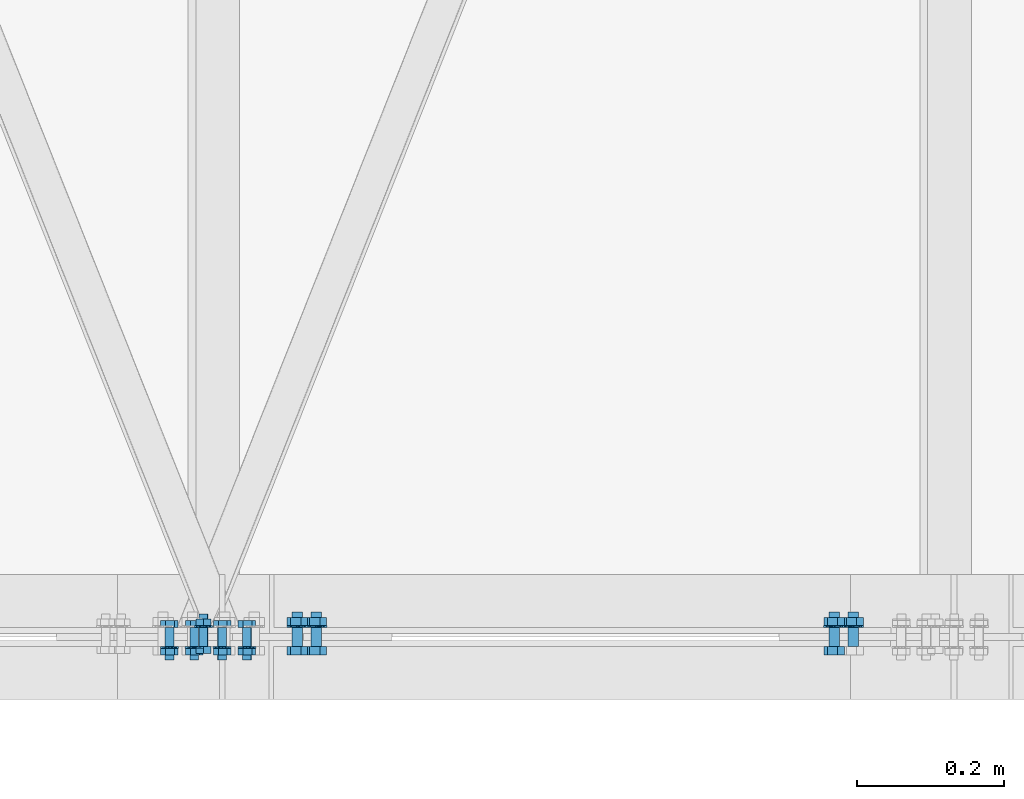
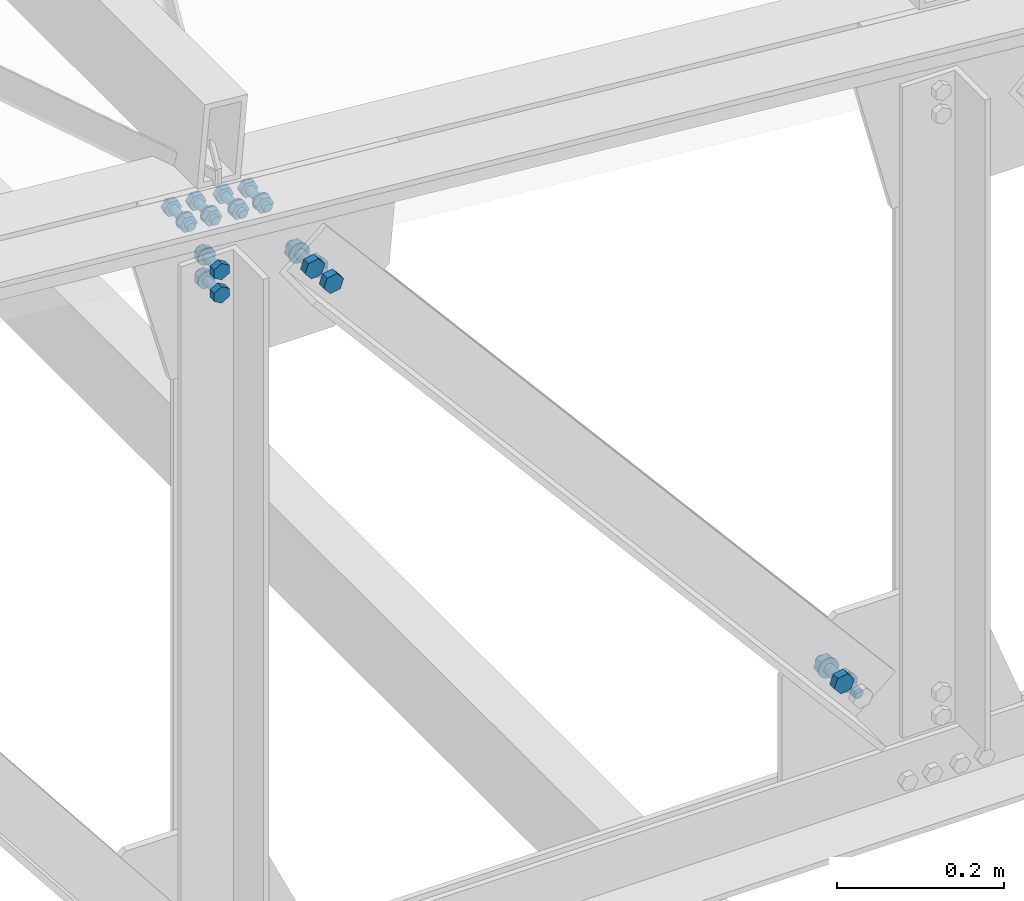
# One storey, part 93 of 251: 39 mechanical fasteners.
"""IFC4 building model written with IfcOpenShell, lengths in metres."""

from ifc_helpers import new_model, si_unit, frame, origin_with_axes, place, context, project, spatial, polyline, outline, extrude, type_object, element, save


model = new_model("IFC4")

# Units and contexts
model_context = context("Model", 3, precision=1e-05, world=origin_with_axes())
ifc_project = project(units=[si_unit("LENGTHUNIT", "METRE"), si_unit("AREAUNIT", "SQUARE_METRE"), si_unit("VOLUMEUNIT", "CUBIC_METRE"), si_unit("MASSUNIT", "GRAM", prefix="KILO"), si_unit("TIMEUNIT", "SECOND"), si_unit("PLANEANGLEUNIT", "RADIAN"), si_unit("SOLIDANGLEUNIT", "STERADIAN"), si_unit("THERMODYNAMICTEMPERATUREUNIT", "DEGREE_CELSIUS")], contexts=[model_context])

# Site, building, storey
placement_1 = place(None, origin_with_axes())
site = spatial("IfcSite", under=ifc_project, at=placement_1, Name="Italia", CompositionType="ELEMENT")
building = spatial("IfcBuilding", under=site, at=placement_1, Name="Deposito", CompositionType="ELEMENT")
storey = spatial("IfcBuildingStorey", under=building, at=placement_1, Name="Storey 0", CompositionType="ELEMENT", Elevation=0.0)

# Mechanical fasteners
mechanical_fastener_type_1 = type_object("IfcMechanicalFastenerType", Name="Reticolare 2", PredefinedType="BOLT")
placement_2 = place(placement_1, origin_with_axes())
mechanical_fastener_1_placement = place(placement_2, origin_with_axes())
element("IfcMechanicalFastener", 1, at=mechanical_fastener_1_placement, inside=storey, type_object=mechanical_fastener_type_1, Name="Reticolare 2", NominalDiameter=0.014, context=model_context, shape_type="SweptSolid", body=[
    extrude(outline(polyline([(0.0, 0.0), (-0.000238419, -0.0018115), (-0.000938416, -0.00349998), (-0.0020504, -0.00494957), (-0.00349998, -0.00606203), (-0.00518799, -0.00676155), (-0.00699997, -0.00699997), (-0.00881195, -0.00676155), (-0.0105, -0.00606203), (-0.0119495, -0.00494957), (-0.0130615, -0.00349998), (-0.0137615, -0.0018115), (-0.0139999, 0.0), (-0.0137615, 0.0018115), (-0.0130615, 0.00349998), (-0.0119495, 0.00494957), (-0.0105, 0.00606203), (-0.00881195, 0.00676155), (-0.00699997, 0.00699997), (-0.00518799, 0.00676155), (-0.00349998, 0.00606203), (-0.0020504, 0.00494957), (-0.000938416, 0.00349998), (-0.000238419, 0.0018115), (0.0, 0.0)])), frame((18.8921, 0.034, 5.15388), z_axis=(0.0, -1.0, 0.0), x_axis=(1.0, 0.0, 0.0)), (0.0, 0.0, 1.0), 0.047),
])
mechanical_fastener_type_2 = type_object("IfcMechanicalFastenerType", Name="Reticolare 2", PredefinedType="BOLT")
mechanical_fastener_2_placement = place(placement_2, origin_with_axes())
element("IfcMechanicalFastener", 2, at=mechanical_fastener_2_placement, inside=storey, type_object=mechanical_fastener_type_2, Name="Reticolare 2", NominalDiameter=0.0139996, context=model_context, shape_type="SweptSolid", body=[
    extrude(outline(polyline([(0.0, 0.0), (-0.00905609, 0.0106759), (-0.00433922, 0.0238571), (0.00943565, 0.0263624), (0.0184917, 0.0156865), (0.0137749, 0.0025053), (0.0, 0.0)])), frame((18.8804, 0.0262, 5.1407), z_axis=(0.0, -1.0, 0.0), x_axis=(1.0, 0.0, 0.0)), (0.0, 0.0, 1.0), 0.0112),
])
mechanical_fastener_type_3 = type_object("IfcMechanicalFastenerType", Name="Reticolare 2", PredefinedType="BOLT")
mechanical_fastener_3_placement = place(placement_2, origin_with_axes())
element("IfcMechanicalFastener", 3, at=mechanical_fastener_3_placement, inside=storey, type_object=mechanical_fastener_type_3, Name="Reticolare 2", NominalDiameter=0.028, context=model_context, shape_type="SweptSolid", body=[
    extrude(outline(polyline([(0.0, 0.0), (-0.000476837, -0.00362349), (-0.00187492, -0.00699997), (-0.0041008, -0.00989962), (-0.00699997, -0.0121245), (-0.010376, -0.0135231), (-0.0139999, -0.0139999), (-0.0176239, -0.0135231), (-0.0209999, -0.0121245), (-0.0238991, -0.00989962), (-0.026125, -0.00699997), (-0.027523, -0.00362349), (-0.0279999, 0.0), (-0.027523, 0.00362349), (-0.026125, 0.00699997), (-0.0238991, 0.00989962), (-0.0209999, 0.0121245), (-0.0176239, 0.0135231), (-0.0139999, 0.0139999), (-0.010376, 0.0135231), (-0.00699997, 0.0121245), (-0.0041008, 0.00989962), (-0.00187492, 0.00699997), (-0.000476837, 0.00362349), (0.0, 0.0)])), frame((18.8991, 0.015, 5.15388), z_axis=(0.0, -1.0, 0.0), x_axis=(1.0, 0.0, 0.0)), (0.0, 0.0, 1.0), 0.002),
])
mechanical_fastener_type_4 = type_object("IfcMechanicalFastenerType", Name="Reticolare 2", PredefinedType="BOLT")
mechanical_fastener_4_placement = place(placement_2, origin_with_axes())
element("IfcMechanicalFastener", 4, at=mechanical_fastener_4_placement, inside=storey, type_object=mechanical_fastener_type_4, Name="Reticolare 2", NominalDiameter=0.013999, context=model_context, shape_type="SweptSolid", body=[
    extrude(outline(polyline([(0.0, 0.0), (-0.009058, 0.0106759), (-0.00433922, 0.0238571), (0.00943375, 0.0263624), (0.0184917, 0.0156865), (0.013773, 0.0025053), (0.0, 0.0)])), frame((18.8545, -0.013, 5.1712), z_axis=(0.0, -1.0, 0.0), x_axis=(1.0, 0.0, 0.0)), (0.0, 0.0, 1.0), 0.0112),
])
mechanical_fastener_type_5 = type_object("IfcMechanicalFastenerType", Name="Reticolare 2", PredefinedType="BOLT")
mechanical_fastener_5_placement = place(placement_2, origin_with_axes())
element("IfcMechanicalFastener", 5, at=mechanical_fastener_5_placement, inside=storey, type_object=mechanical_fastener_type_5, Name="Reticolare 2", NominalDiameter=0.014, context=model_context, shape_type="SweptSolid", body=[
    extrude(outline(polyline([(0.0, 0.0), (-0.000238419, -0.0018115), (-0.000938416, -0.00349998), (-0.0020504, -0.00494957), (-0.00349998, -0.00606203), (-0.00518799, -0.00676155), (-0.00699997, -0.00699997), (-0.00881195, -0.00676155), (-0.0105, -0.00606203), (-0.0119495, -0.00494957), (-0.0130615, -0.00349998), (-0.0137615, -0.0018115), (-0.0139999, 0.0), (-0.0137615, 0.0018115), (-0.0130615, 0.00349998), (-0.0119495, 0.00494957), (-0.0105, 0.00606203), (-0.00881195, 0.00676155), (-0.00699997, 0.00699997), (-0.00518799, 0.00676155), (-0.00349998, 0.00606203), (-0.0020504, 0.00494957), (-0.000938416, 0.00349998), (-0.000238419, 0.0018115), (0.0, 0.0)])), frame((18.8662, 0.034, 5.18438), z_axis=(0.0, -1.0, 0.0), x_axis=(1.0, 0.0, 0.0)), (0.0, 0.0, 1.0), 0.047),
])
mechanical_fastener_type_6 = type_object("IfcMechanicalFastenerType", Name="Reticolare 2", PredefinedType="BOLT")
mechanical_fastener_6_placement = place(placement_2, origin_with_axes())
element("IfcMechanicalFastener", 6, at=mechanical_fastener_6_placement, inside=storey, type_object=mechanical_fastener_type_6, Name="Reticolare 2", NominalDiameter=0.013999, context=model_context, shape_type="SweptSolid", body=[
    extrude(outline(polyline([(0.0, 0.0), (-0.009058, 0.0106759), (-0.00433922, 0.0238571), (0.00943375, 0.0263624), (0.0184917, 0.0156865), (0.013773, 0.0025053), (0.0, 0.0)])), frame((18.8545, 0.0262, 5.1712), z_axis=(0.0, -1.0, 0.0), x_axis=(1.0, 0.0, 0.0)), (0.0, 0.0, 1.0), 0.0112),
])
mechanical_fastener_type_7 = type_object("IfcMechanicalFastenerType", Name="Reticolare 2", PredefinedType="BOLT")
mechanical_fastener_7_placement = place(placement_2, origin_with_axes())
element("IfcMechanicalFastener", 7, at=mechanical_fastener_7_placement, inside=storey, type_object=mechanical_fastener_type_7, Name="Reticolare 2", NominalDiameter=0.028, context=model_context, shape_type="SweptSolid", body=[
    extrude(outline(polyline([(0.0, 0.0), (-0.000476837, -0.00362349), (-0.00187492, -0.00699997), (-0.0041008, -0.00989962), (-0.00699997, -0.0121245), (-0.010376, -0.0135231), (-0.0139999, -0.0139999), (-0.0176239, -0.0135231), (-0.0209999, -0.0121245), (-0.0238991, -0.00989962), (-0.026125, -0.00699997), (-0.027523, -0.00362349), (-0.0279999, 0.0), (-0.027523, 0.00362349), (-0.026125, 0.00699997), (-0.0238991, 0.00989962), (-0.0209999, 0.0121245), (-0.0176239, 0.0135231), (-0.0139999, 0.0139999), (-0.010376, 0.0135231), (-0.00699997, 0.0121245), (-0.0041008, 0.00989962), (-0.00187492, 0.00699997), (-0.000476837, 0.00362349), (0.0, 0.0)])), frame((18.8732, 0.015, 5.18438), z_axis=(0.0, -1.0, 0.0), x_axis=(1.0, 0.0, 0.0)), (0.0, 0.0, 1.0), 0.002),
])
mechanical_fastener_type_8 = type_object("IfcMechanicalFastenerType", Name="Reticolare 2", PredefinedType="BOLT")
mechanical_fastener_8_placement = place(placement_2, origin_with_axes())
element("IfcMechanicalFastener", 8, at=mechanical_fastener_8_placement, inside=storey, type_object=mechanical_fastener_type_8, Name="Reticolare 2", NominalDiameter=0.011999, context=model_context, shape_type="SweptSolid", body=[
    extrude(outline(polyline([(0.0, 0.0), (0.0119534, 0.0010457), (0.018837, -0.00878429), (0.0137653, -0.01966), (0.00181007, -0.0207057), (-0.00507164, -0.0108757), (0.0, 0.0)])), frame((18.0328, 0.013, 6.17551), z_axis=(0.0, 1.0, 0.0), x_axis=(-1.0, 0.0, 0.0)), (0.0, 0.0, 1.0), 0.0096),
])
mechanical_fastener_type_9 = type_object("IfcMechanicalFastenerType", Name="Reticolare 2", PredefinedType="BOLT")
mechanical_fastener_9_placement = place(placement_2, origin_with_axes())
element("IfcMechanicalFastener", 9, at=mechanical_fastener_9_placement, inside=storey, type_object=mechanical_fastener_type_9, Name="Reticolare 2", NominalDiameter=0.012, context=model_context, shape_type="SweptSolid", body=[
    extrude(outline(polyline([(0.0, 0.0), (-0.000204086, -0.00155306), (-0.000804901, -0.00299978), (-0.00175858, -0.00424242), (-0.00300026, -0.00519609), (-0.00444794, -0.00579548), (-0.00600052, -0.00600004), (-0.0075531, -0.00579548), (-0.00900078, -0.00519609), (-0.0102425, -0.00424242), (-0.0111961, -0.00299978), (-0.011797, -0.00155306), (-0.012001, 0.0), (-0.011797, 0.00155306), (-0.0111961, 0.00299978), (-0.0102425, 0.00424242), (-0.00900078, 0.00519609), (-0.0075531, 0.00579548), (-0.00600052, 0.00600004), (-0.00444794, 0.00579548), (-0.00300026, 0.00519609), (-0.00175858, 0.00424242), (-0.000804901, 0.00299978), (-0.000204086, 0.00155306), (0.0, 0.0)])), frame((18.0199, -0.031, 6.16568), z_axis=(0.0, 1.0, 0.0), x_axis=(-1.0, 0.0, 0.0)), (0.0, 0.0, 1.0), 0.044),
])
mechanical_fastener_type_10 = type_object("IfcMechanicalFastenerType", Name="Reticolare 2", PredefinedType="BOLT")
mechanical_fastener_10_placement = place(placement_2, origin_with_axes())
element("IfcMechanicalFastener", 10, at=mechanical_fastener_10_placement, inside=storey, type_object=mechanical_fastener_type_10, Name="Reticolare 2", NominalDiameter=0.011999, context=model_context, shape_type="SweptSolid", body=[
    extrude(outline(polyline([(0.0, 0.0), (0.0119534, 0.0010457), (0.018837, -0.00878429), (0.0137653, -0.01966), (0.00181007, -0.0207057), (-0.00507164, -0.0108757), (0.0, 0.0)])), frame((18.0328, -0.0246, 6.17551), z_axis=(0.0, 1.0, 0.0), x_axis=(-1.0, 0.0, 0.0)), (0.0, 0.0, 1.0), 0.0096),
])
mechanical_fastener_type_11 = type_object("IfcMechanicalFastenerType", Name="Reticolare 2", PredefinedType="BOLT")
mechanical_fastener_11_placement = place(placement_2, origin_with_axes())
element("IfcMechanicalFastener", 11, at=mechanical_fastener_11_placement, inside=storey, type_object=mechanical_fastener_type_11, Name="Reticolare 2", NominalDiameter=0.024, context=model_context, shape_type="SweptSolid", body=[
    extrude(outline(polyline([(0.0, 0.0), (-0.000408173, -0.00310564), (-0.00160599, -0.00600004), (-0.00351334, -0.00848532), (-0.00599861, -0.0103922), (-0.00889397, -0.011591), (-0.0119991, -0.0120001), (-0.0151043, -0.011591), (-0.0179996, -0.0103922), (-0.0204849, -0.00848532), (-0.0223923, -0.00600004), (-0.0235901, -0.00310564), (-0.0239983, 0.0), (-0.0235901, 0.00310564), (-0.0223923, 0.00600004), (-0.0204849, 0.00848532), (-0.0179996, 0.0103922), (-0.0151043, 0.011591), (-0.0119991, 0.0120001), (-0.00889397, 0.011591), (-0.00599861, 0.0103922), (-0.00351334, 0.00848532), (-0.00160599, 0.00600004), (-0.000408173, 0.00310564), (0.0, 0.0)])), frame((18.0139, -0.015, 6.16568), z_axis=(0.0, 1.0, 0.0), x_axis=(-1.0, 0.0, 0.0)), (0.0, 0.0, 1.0), 0.002),
])
mechanical_fastener_type_12 = type_object("IfcMechanicalFastenerType", Name="Reticolare 2", PredefinedType="BOLT")
mechanical_fastener_12_placement = place(placement_2, origin_with_axes())
element("IfcMechanicalFastener", 12, at=mechanical_fastener_12_placement, inside=storey, type_object=mechanical_fastener_type_12, Name="Reticolare 2", NominalDiameter=0.011999, context=model_context, shape_type="SweptSolid", body=[
    extrude(outline(polyline([(0.0, 0.0), (0.0119534, 0.0010457), (0.018837, -0.00878382), (0.0137653, -0.0196595), (0.00181007, -0.0207052), (-0.00507164, -0.0108757), (0.0, 0.0)])), frame((18.0667, 0.013, 6.17255), z_axis=(0.0, 1.0, 0.0), x_axis=(-1.0, 0.0, 0.0)), (0.0, 0.0, 1.0), 0.0096),
])
mechanical_fastener_type_13 = type_object("IfcMechanicalFastenerType", Name="Reticolare 2", PredefinedType="BOLT")
mechanical_fastener_13_placement = place(placement_2, origin_with_axes())
element("IfcMechanicalFastener", 13, at=mechanical_fastener_13_placement, inside=storey, type_object=mechanical_fastener_type_13, Name="Reticolare 2", NominalDiameter=0.012, context=model_context, shape_type="SweptSolid", body=[
    extrude(outline(polyline([(0.0, 0.0), (-0.000204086, -0.00155306), (-0.000804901, -0.00299978), (-0.00175858, -0.00424242), (-0.00300026, -0.00519609), (-0.00444794, -0.00579548), (-0.00600052, -0.00600004), (-0.0075531, -0.00579548), (-0.00900078, -0.00519609), (-0.0102425, -0.00424242), (-0.0111961, -0.00299978), (-0.011797, -0.00155306), (-0.012001, 0.0), (-0.011797, 0.00155306), (-0.0111961, 0.00299978), (-0.0102425, 0.00424242), (-0.00900078, 0.00519609), (-0.0075531, 0.00579548), (-0.00600052, 0.00600004), (-0.00444794, 0.00579548), (-0.00300026, 0.00519609), (-0.00175858, 0.00424242), (-0.000804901, 0.00299978), (-0.000204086, 0.00155306), (0.0, 0.0)])), frame((18.0538, -0.031, 6.16272), z_axis=(0.0, 1.0, 0.0), x_axis=(-1.0, 0.0, 0.0)), (0.0, 0.0, 1.0), 0.044),
])
mechanical_fastener_type_14 = type_object("IfcMechanicalFastenerType", Name="Reticolare 2", PredefinedType="BOLT")
mechanical_fastener_14_placement = place(placement_2, origin_with_axes())
element("IfcMechanicalFastener", 14, at=mechanical_fastener_14_placement, inside=storey, type_object=mechanical_fastener_type_14, Name="Reticolare 2", NominalDiameter=0.011999, context=model_context, shape_type="SweptSolid", body=[
    extrude(outline(polyline([(0.0, 0.0), (0.0119534, 0.0010457), (0.018837, -0.00878382), (0.0137653, -0.0196595), (0.00181007, -0.0207052), (-0.00507164, -0.0108757), (0.0, 0.0)])), frame((18.0667, -0.0246, 6.17255), z_axis=(0.0, 1.0, 0.0), x_axis=(-1.0, 0.0, 0.0)), (0.0, 0.0, 1.0), 0.0096),
])
mechanical_fastener_type_15 = type_object("IfcMechanicalFastenerType", Name="Reticolare 2", PredefinedType="BOLT")
mechanical_fastener_15_placement = place(placement_2, origin_with_axes())
element("IfcMechanicalFastener", 15, at=mechanical_fastener_15_placement, inside=storey, type_object=mechanical_fastener_type_15, Name="Reticolare 2", NominalDiameter=0.024, context=model_context, shape_type="SweptSolid", body=[
    extrude(outline(polyline([(0.0, 0.0), (-0.000408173, -0.00310564), (-0.00160599, -0.00600004), (-0.00351334, -0.00848532), (-0.00599861, -0.0103922), (-0.00889397, -0.011591), (-0.0119991, -0.0120001), (-0.0151043, -0.011591), (-0.0179996, -0.0103922), (-0.0204849, -0.00848532), (-0.0223923, -0.00600004), (-0.0235901, -0.00310564), (-0.0239983, 0.0), (-0.0235901, 0.00310564), (-0.0223923, 0.00600004), (-0.0204849, 0.00848532), (-0.0179996, 0.0103922), (-0.0151043, 0.011591), (-0.0119991, 0.0120001), (-0.00889397, 0.011591), (-0.00599861, 0.0103922), (-0.00351334, 0.00848532), (-0.00160599, 0.00600004), (-0.000408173, 0.00310564), (0.0, 0.0)])), frame((18.0478, -0.015, 6.16272), z_axis=(0.0, 1.0, 0.0), x_axis=(-1.0, 0.0, 0.0)), (0.0, 0.0, 1.0), 0.002),
])
mechanical_fastener_type_16 = type_object("IfcMechanicalFastenerType", Name="Reticolare 2", PredefinedType="BOLT")
mechanical_fastener_16_placement = place(placement_2, origin_with_axes())
element("IfcMechanicalFastener", 16, at=mechanical_fastener_16_placement, inside=storey, type_object=mechanical_fastener_type_16, Name="Reticolare 2", NominalDiameter=0.011999, context=model_context, shape_type="SweptSolid", body=[
    extrude(outline(polyline([(0.0, 0.0), (0.0119534, 0.00104618), (0.018837, -0.00878382), (0.0137653, -0.0196595), (0.00181198, -0.0207052), (-0.00507164, -0.0108757), (0.0, 0.0)])), frame((17.995, 0.013, 6.17882), z_axis=(0.0, 1.0, 0.0), x_axis=(-1.0, 0.0, 0.0)), (0.0, 0.0, 1.0), 0.0096),
])
mechanical_fastener_type_17 = type_object("IfcMechanicalFastenerType", Name="Reticolare 2", PredefinedType="BOLT")
mechanical_fastener_17_placement = place(placement_2, origin_with_axes())
element("IfcMechanicalFastener", 17, at=mechanical_fastener_17_placement, inside=storey, type_object=mechanical_fastener_type_17, Name="Reticolare 2", NominalDiameter=0.012, context=model_context, shape_type="SweptSolid", body=[
    extrude(outline(polyline([(0.0, 0.0), (-0.000204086, -0.00155306), (-0.000804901, -0.00299978), (-0.00175858, -0.00424242), (-0.00300026, -0.00519609), (-0.00444794, -0.00579548), (-0.00600052, -0.00600004), (-0.0075531, -0.00579548), (-0.00900078, -0.00519609), (-0.0102425, -0.00424242), (-0.0111961, -0.00299978), (-0.011797, -0.00155306), (-0.012001, 0.0), (-0.011797, 0.00155306), (-0.0111961, 0.00299978), (-0.0102425, 0.00424242), (-0.00900078, 0.00519609), (-0.0075531, 0.00579548), (-0.00600052, 0.00600004), (-0.00444794, 0.00579548), (-0.00300026, 0.00519609), (-0.00175858, 0.00424242), (-0.000804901, 0.00299978), (-0.000204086, 0.00155306), (0.0, 0.0)])), frame((17.9821, -0.031, 6.16899), z_axis=(0.0, 1.0, 0.0), x_axis=(-1.0, 0.0, 0.0)), (0.0, 0.0, 1.0), 0.044),
])
mechanical_fastener_type_18 = type_object("IfcMechanicalFastenerType", Name="Reticolare 2", PredefinedType="BOLT")
mechanical_fastener_18_placement = place(placement_2, origin_with_axes())
element("IfcMechanicalFastener", 18, at=mechanical_fastener_18_placement, inside=storey, type_object=mechanical_fastener_type_18, Name="Reticolare 2", NominalDiameter=0.011999, context=model_context, shape_type="SweptSolid", body=[
    extrude(outline(polyline([(0.0, 0.0), (0.0119534, 0.00104618), (0.018837, -0.00878382), (0.0137653, -0.0196595), (0.00181198, -0.0207052), (-0.00507164, -0.0108757), (0.0, 0.0)])), frame((17.995, -0.0246, 6.17882), z_axis=(0.0, 1.0, 0.0), x_axis=(-1.0, 0.0, 0.0)), (0.0, 0.0, 1.0), 0.0096),
])
mechanical_fastener_type_19 = type_object("IfcMechanicalFastenerType", Name="Reticolare 2", PredefinedType="BOLT")
mechanical_fastener_19_placement = place(placement_2, origin_with_axes())
element("IfcMechanicalFastener", 19, at=mechanical_fastener_19_placement, inside=storey, type_object=mechanical_fastener_type_19, Name="Reticolare 2", NominalDiameter=0.024, context=model_context, shape_type="SweptSolid", body=[
    extrude(outline(polyline([(0.0, 0.0), (-0.000408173, -0.00310564), (-0.00160599, -0.00600004), (-0.00351334, -0.00848532), (-0.00599861, -0.0103922), (-0.00889397, -0.011591), (-0.0119991, -0.0120001), (-0.0151043, -0.011591), (-0.0179996, -0.0103922), (-0.0204849, -0.00848532), (-0.0223923, -0.00600004), (-0.0235901, -0.00310564), (-0.0239983, 0.0), (-0.0235901, 0.00310564), (-0.0223923, 0.00600004), (-0.0204849, 0.00848532), (-0.0179996, 0.0103922), (-0.0151043, 0.011591), (-0.0119991, 0.0120001), (-0.00889397, 0.011591), (-0.00599861, 0.0103922), (-0.00351334, 0.00848532), (-0.00160599, 0.00600004), (-0.000408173, 0.00310564), (0.0, 0.0)])), frame((17.9761, -0.015, 6.16899), z_axis=(0.0, 1.0, 0.0), x_axis=(-1.0, 0.0, 0.0)), (0.0, 0.0, 1.0), 0.002),
])
mechanical_fastener_type_20 = type_object("IfcMechanicalFastenerType", Name="Reticolare 2", PredefinedType="BOLT")
mechanical_fastener_20_placement = place(placement_2, origin_with_axes())
element("IfcMechanicalFastener", 20, at=mechanical_fastener_20_placement, inside=storey, type_object=mechanical_fastener_type_20, Name="Reticolare 2", NominalDiameter=0.011999, context=model_context, shape_type="SweptSolid", body=[
    extrude(outline(polyline([(0.0, 0.0), (0.0119534, 0.0010457), (0.018837, -0.00878429), (0.0137653, -0.01966), (0.00181198, -0.0207057), (-0.00507164, -0.0108757), (0.0, 0.0)])), frame((17.9611, 0.013, 6.18179), z_axis=(0.0, 1.0, 0.0), x_axis=(-1.0, 0.0, 0.0)), (0.0, 0.0, 1.0), 0.0096),
])
mechanical_fastener_type_21 = type_object("IfcMechanicalFastenerType", Name="Reticolare 2", PredefinedType="BOLT")
mechanical_fastener_21_placement = place(placement_2, origin_with_axes())
element("IfcMechanicalFastener", 21, at=mechanical_fastener_21_placement, inside=storey, type_object=mechanical_fastener_type_21, Name="Reticolare 2", NominalDiameter=0.012, context=model_context, shape_type="SweptSolid", body=[
    extrude(outline(polyline([(0.0, 0.0), (-0.000204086, -0.00155306), (-0.000804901, -0.00299978), (-0.00175858, -0.00424242), (-0.00300026, -0.00519609), (-0.00444794, -0.00579548), (-0.00600052, -0.00600004), (-0.0075531, -0.00579548), (-0.00900078, -0.00519609), (-0.0102425, -0.00424242), (-0.0111961, -0.00299978), (-0.011797, -0.00155306), (-0.012001, 0.0), (-0.011797, 0.00155306), (-0.0111961, 0.00299978), (-0.0102425, 0.00424242), (-0.00900078, 0.00519609), (-0.0075531, 0.00579548), (-0.00600052, 0.00600004), (-0.00444794, 0.00579548), (-0.00300026, 0.00519609), (-0.00175858, 0.00424242), (-0.000804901, 0.00299978), (-0.000204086, 0.00155306), (0.0, 0.0)])), frame((17.9482, -0.031, 6.17196), z_axis=(0.0, 1.0, 0.0), x_axis=(-1.0, 0.0, 0.0)), (0.0, 0.0, 1.0), 0.044),
])
mechanical_fastener_type_22 = type_object("IfcMechanicalFastenerType", Name="Reticolare 2", PredefinedType="BOLT")
mechanical_fastener_22_placement = place(placement_2, origin_with_axes())
element("IfcMechanicalFastener", 22, at=mechanical_fastener_22_placement, inside=storey, type_object=mechanical_fastener_type_22, Name="Reticolare 2", NominalDiameter=0.011999, context=model_context, shape_type="SweptSolid", body=[
    extrude(outline(polyline([(0.0, 0.0), (0.0119534, 0.0010457), (0.018837, -0.00878429), (0.0137653, -0.01966), (0.00181198, -0.0207057), (-0.00507164, -0.0108757), (0.0, 0.0)])), frame((17.9611, -0.0246, 6.18179), z_axis=(0.0, 1.0, 0.0), x_axis=(-1.0, 0.0, 0.0)), (0.0, 0.0, 1.0), 0.0096),
])
mechanical_fastener_type_23 = type_object("IfcMechanicalFastenerType", Name="Reticolare 2", PredefinedType="BOLT")
mechanical_fastener_23_placement = place(placement_2, origin_with_axes())
element("IfcMechanicalFastener", 23, at=mechanical_fastener_23_placement, inside=storey, type_object=mechanical_fastener_type_23, Name="Reticolare 2", NominalDiameter=0.024, context=model_context, shape_type="SweptSolid", body=[
    extrude(outline(polyline([(0.0, 0.0), (-0.000408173, -0.00310564), (-0.00160599, -0.00600004), (-0.00351334, -0.00848532), (-0.00599861, -0.0103922), (-0.00889397, -0.011591), (-0.0119991, -0.0120001), (-0.0151043, -0.011591), (-0.0179996, -0.0103922), (-0.0204849, -0.00848532), (-0.0223923, -0.00600004), (-0.0235901, -0.00310564), (-0.0239983, 0.0), (-0.0235901, 0.00310564), (-0.0223923, 0.00600004), (-0.0204849, 0.00848532), (-0.0179996, 0.0103922), (-0.0151043, 0.011591), (-0.0119991, 0.0120001), (-0.00889397, 0.011591), (-0.00599861, 0.0103922), (-0.00351334, 0.00848532), (-0.00160599, 0.00600004), (-0.000408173, 0.00310564), (0.0, 0.0)])), frame((17.9422, -0.015, 6.17196), z_axis=(0.0, 1.0, 0.0), x_axis=(-1.0, 0.0, 0.0)), (0.0, 0.0, 1.0), 0.002),
])
mechanical_fastener_type_24 = type_object("IfcMechanicalFastenerType", Name="Reticolare 2", PredefinedType="BOLT")
mechanical_fastener_24_placement = place(placement_2, origin_with_axes())
element("IfcMechanicalFastener", 24, at=mechanical_fastener_24_placement, inside=storey, type_object=mechanical_fastener_type_24, Name="Reticolare 2", NominalDiameter=0.0120001, context=model_context, shape_type="SweptSolid", body=[
    extrude(outline(polyline([(0.0, 0.0), (0.0, -0.0120001), (-0.0103931, -0.0180001), (-0.0207863, -0.0120001), (-0.0207863, 0.0), (-0.0103931, 0.00600004), (0.0, 0.0)])), frame((18.011, -0.013, 6.09155), z_axis=(0.0, -1.0, 0.0), x_axis=(1.0, 0.0, 0.0)), (0.0, 0.0, 1.0), 0.0096),
])
mechanical_fastener_type_25 = type_object("IfcMechanicalFastenerType", Name="Reticolare 2", PredefinedType="BOLT")
mechanical_fastener_25_placement = place(placement_2, origin_with_axes())
element("IfcMechanicalFastener", 25, at=mechanical_fastener_25_placement, inside=storey, type_object=mechanical_fastener_type_25, Name="Reticolare 2", NominalDiameter=0.012, context=model_context, shape_type="SweptSolid", body=[
    extrude(outline(polyline([(0.0, 0.0), (-0.000204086, -0.00155306), (-0.000804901, -0.00299978), (-0.00175858, -0.00424242), (-0.00300026, -0.00519609), (-0.00444794, -0.00579548), (-0.00600052, -0.00600004), (-0.0075531, -0.00579548), (-0.00900078, -0.00519609), (-0.0102425, -0.00424242), (-0.0111961, -0.00299978), (-0.011797, -0.00155306), (-0.012001, 0.0), (-0.011797, 0.00155306), (-0.0111961, 0.00299978), (-0.0102425, 0.00424242), (-0.00900078, 0.00519609), (-0.0075531, 0.00579548), (-0.00600052, 0.00600004), (-0.00444794, 0.00579548), (-0.00300026, 0.00519609), (-0.00175858, 0.00424242), (-0.000804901, 0.00299978), (-0.000204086, 0.00155306), (0.0, 0.0)])), frame((18.0066, 0.031, 6.08555), z_axis=(0.0, -1.0, 0.0), x_axis=(1.0, 0.0, 0.0)), (0.0, 0.0, 1.0), 0.044),
])
mechanical_fastener_type_26 = type_object("IfcMechanicalFastenerType", Name="Reticolare 2", PredefinedType="BOLT")
mechanical_fastener_26_placement = place(placement_2, origin_with_axes())
element("IfcMechanicalFastener", 26, at=mechanical_fastener_26_placement, inside=storey, type_object=mechanical_fastener_type_26, Name="Reticolare 2", NominalDiameter=0.0120001, context=model_context, shape_type="SweptSolid", body=[
    extrude(outline(polyline([(0.0, 0.0), (0.0, -0.0120001), (-0.0103931, -0.0180001), (-0.0207863, -0.0120001), (-0.0207863, 0.0), (-0.0103931, 0.00600004), (0.0, 0.0)])), frame((18.011, 0.0246, 6.09155), z_axis=(0.0, -1.0, 0.0), x_axis=(1.0, 0.0, 0.0)), (0.0, 0.0, 1.0), 0.0096),
])
mechanical_fastener_type_27 = type_object("IfcMechanicalFastenerType", Name="Reticolare 2", PredefinedType="BOLT")
mechanical_fastener_27_placement = place(placement_2, origin_with_axes())
element("IfcMechanicalFastener", 27, at=mechanical_fastener_27_placement, inside=storey, type_object=mechanical_fastener_type_27, Name="Reticolare 2", NominalDiameter=0.024, context=model_context, shape_type="SweptSolid", body=[
    extrude(outline(polyline([(0.0, 0.0), (-0.000408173, -0.00310564), (-0.00160599, -0.00600004), (-0.00351334, -0.00848532), (-0.00599861, -0.0103922), (-0.00889397, -0.011591), (-0.0119991, -0.0120001), (-0.0151043, -0.011591), (-0.0179996, -0.0103922), (-0.0204849, -0.00848532), (-0.0223923, -0.00600004), (-0.0235901, -0.00310564), (-0.0239983, 0.0), (-0.0235901, 0.00310564), (-0.0223923, 0.00600004), (-0.0204849, 0.00848532), (-0.0179996, 0.0103922), (-0.0151043, 0.011591), (-0.0119991, 0.0120001), (-0.00889397, 0.011591), (-0.00599861, 0.0103922), (-0.00351334, 0.00848532), (-0.00160599, 0.00600004), (-0.000408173, 0.00310564), (0.0, 0.0)])), frame((18.0126, 0.015, 6.08555), z_axis=(0.0, -1.0, 0.0), x_axis=(1.0, 0.0, 0.0)), (0.0, 0.0, 1.0), 0.002),
])
mechanical_fastener_type_28 = type_object("IfcMechanicalFastenerType", Name="Reticolare 2", PredefinedType="BOLT")
mechanical_fastener_28_placement = place(placement_2, origin_with_axes())
element("IfcMechanicalFastener", 28, at=mechanical_fastener_28_placement, inside=storey, type_object=mechanical_fastener_type_28, Name="Reticolare 2", NominalDiameter=0.0120001, context=model_context, shape_type="SweptSolid", body=[
    extrude(outline(polyline([(0.0, 0.0), (0.0, -0.0120001), (-0.0103931, -0.0180001), (-0.0207863, -0.0120001), (-0.0207863, 0.0), (-0.0103931, 0.00600004), (0.0, 0.0)])), frame((18.011, -0.013, 6.05755), z_axis=(0.0, -1.0, 0.0), x_axis=(1.0, 0.0, 0.0)), (0.0, 0.0, 1.0), 0.0096),
])
mechanical_fastener_type_29 = type_object("IfcMechanicalFastenerType", Name="Reticolare 2", PredefinedType="BOLT")
mechanical_fastener_29_placement = place(placement_2, origin_with_axes())
element("IfcMechanicalFastener", 29, at=mechanical_fastener_29_placement, inside=storey, type_object=mechanical_fastener_type_29, Name="Reticolare 2", NominalDiameter=0.012, context=model_context, shape_type="SweptSolid", body=[
    extrude(outline(polyline([(0.0, 0.0), (-0.000204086, -0.00155306), (-0.000804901, -0.00299978), (-0.00175858, -0.00424242), (-0.00300026, -0.00519609), (-0.00444794, -0.00579548), (-0.00600052, -0.00600004), (-0.0075531, -0.00579548), (-0.00900078, -0.00519609), (-0.0102425, -0.00424242), (-0.0111961, -0.00299978), (-0.011797, -0.00155306), (-0.012001, 0.0), (-0.011797, 0.00155306), (-0.0111961, 0.00299978), (-0.0102425, 0.00424242), (-0.00900078, 0.00519609), (-0.0075531, 0.00579548), (-0.00600052, 0.00600004), (-0.00444794, 0.00579548), (-0.00300026, 0.00519609), (-0.00175858, 0.00424242), (-0.000804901, 0.00299978), (-0.000204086, 0.00155306), (0.0, 0.0)])), frame((18.0066, 0.031, 6.05155), z_axis=(0.0, -1.0, 0.0), x_axis=(1.0, 0.0, 0.0)), (0.0, 0.0, 1.0), 0.044),
])
mechanical_fastener_type_30 = type_object("IfcMechanicalFastenerType", Name="Reticolare 2", PredefinedType="BOLT")
mechanical_fastener_30_placement = place(placement_2, origin_with_axes())
element("IfcMechanicalFastener", 30, at=mechanical_fastener_30_placement, inside=storey, type_object=mechanical_fastener_type_30, Name="Reticolare 2", NominalDiameter=0.0120001, context=model_context, shape_type="SweptSolid", body=[
    extrude(outline(polyline([(0.0, 0.0), (0.0, -0.0120001), (-0.0103931, -0.0180001), (-0.0207863, -0.0120001), (-0.0207863, 0.0), (-0.0103931, 0.00600004), (0.0, 0.0)])), frame((18.011, 0.0246, 6.05755), z_axis=(0.0, -1.0, 0.0), x_axis=(1.0, 0.0, 0.0)), (0.0, 0.0, 1.0), 0.0096),
])
mechanical_fastener_type_31 = type_object("IfcMechanicalFastenerType", Name="Reticolare 2", PredefinedType="BOLT")
mechanical_fastener_31_placement = place(placement_2, origin_with_axes())
element("IfcMechanicalFastener", 31, at=mechanical_fastener_31_placement, inside=storey, type_object=mechanical_fastener_type_31, Name="Reticolare 2", NominalDiameter=0.024, context=model_context, shape_type="SweptSolid", body=[
    extrude(outline(polyline([(0.0, 0.0), (-0.000408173, -0.00310564), (-0.00160599, -0.00600004), (-0.00351334, -0.00848532), (-0.00599861, -0.0103922), (-0.00889397, -0.011591), (-0.0119991, -0.0120001), (-0.0151043, -0.011591), (-0.0179996, -0.0103922), (-0.0204849, -0.00848532), (-0.0223923, -0.00600004), (-0.0235901, -0.00310564), (-0.0239983, 0.0), (-0.0235901, 0.00310564), (-0.0223923, 0.00600004), (-0.0204849, 0.00848532), (-0.0179996, 0.0103922), (-0.0151043, 0.011591), (-0.0119991, 0.0120001), (-0.00889397, 0.011591), (-0.00599861, 0.0103922), (-0.00351334, 0.00848532), (-0.00160599, 0.00600004), (-0.000408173, 0.00310564), (0.0, 0.0)])), frame((18.0126, 0.015, 6.05155), z_axis=(0.0, -1.0, 0.0), x_axis=(1.0, 0.0, 0.0)), (0.0, 0.0, 1.0), 0.002),
])
mechanical_fastener_type_32 = type_object("IfcMechanicalFastenerType", Name="Reticolare 2", PredefinedType="BOLT")
mechanical_fastener_32_placement = place(placement_2, origin_with_axes())
element("IfcMechanicalFastener", 32, at=mechanical_fastener_32_placement, inside=storey, type_object=mechanical_fastener_type_32, Name="Reticolare 2", NominalDiameter=0.013999, context=model_context, shape_type="SweptSolid", body=[
    extrude(outline(polyline([(0.0, 0.0), (-0.009058, 0.0106759), (-0.00433922, 0.0238571), (0.00943375, 0.0263624), (0.0184898, 0.0156865), (0.013773, 0.0025053), (0.0, 0.0)])), frame((18.1237, -0.013, 6.03264), z_axis=(0.0, -1.0, 0.0), x_axis=(1.0, 0.0, 0.0)), (0.0, 0.0, 1.0), 0.0112),
])
mechanical_fastener_type_33 = type_object("IfcMechanicalFastenerType", Name="Reticolare 2", PredefinedType="BOLT")
mechanical_fastener_33_placement = place(placement_2, origin_with_axes())
element("IfcMechanicalFastener", 33, at=mechanical_fastener_33_placement, inside=storey, type_object=mechanical_fastener_type_33, Name="Reticolare 2", NominalDiameter=0.014, context=model_context, shape_type="SweptSolid", body=[
    extrude(outline(polyline([(0.0, 0.0), (-0.000238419, -0.0018115), (-0.000938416, -0.00349998), (-0.0020504, -0.00494957), (-0.00349998, -0.00606203), (-0.00518799, -0.00676155), (-0.00699997, -0.00699997), (-0.00881195, -0.00676155), (-0.0105, -0.00606203), (-0.0119495, -0.00494957), (-0.0130615, -0.00349998), (-0.0137615, -0.0018115), (-0.0139999, 0.0), (-0.0137615, 0.0018115), (-0.0130615, 0.00349998), (-0.0119495, 0.00494957), (-0.0105, 0.00606203), (-0.00881195, 0.00676155), (-0.00699997, 0.00699997), (-0.00518799, 0.00676155), (-0.00349998, 0.00606203), (-0.0020504, 0.00494957), (-0.000938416, 0.00349998), (-0.000238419, 0.0018115), (0.0, 0.0)])), frame((18.1354, 0.034, 6.04582), z_axis=(0.0, -1.0, 0.0), x_axis=(1.0, 0.0, 0.0)), (0.0, 0.0, 1.0), 0.047),
])
mechanical_fastener_type_34 = type_object("IfcMechanicalFastenerType", Name="Reticolare 2", PredefinedType="BOLT")
mechanical_fastener_34_placement = place(placement_2, origin_with_axes())
element("IfcMechanicalFastener", 34, at=mechanical_fastener_34_placement, inside=storey, type_object=mechanical_fastener_type_34, Name="Reticolare 2", NominalDiameter=0.013999, context=model_context, shape_type="SweptSolid", body=[
    extrude(outline(polyline([(0.0, 0.0), (-0.009058, 0.0106759), (-0.00433922, 0.0238571), (0.00943375, 0.0263624), (0.0184898, 0.0156865), (0.013773, 0.0025053), (0.0, 0.0)])), frame((18.1237, 0.0262, 6.03264), z_axis=(0.0, -1.0, 0.0), x_axis=(1.0, 0.0, 0.0)), (0.0, 0.0, 1.0), 0.0112),
])
mechanical_fastener_type_35 = type_object("IfcMechanicalFastenerType", Name="Reticolare 2", PredefinedType="BOLT")
mechanical_fastener_35_placement = place(placement_2, origin_with_axes())
element("IfcMechanicalFastener", 35, at=mechanical_fastener_35_placement, inside=storey, type_object=mechanical_fastener_type_35, Name="Reticolare 2", NominalDiameter=0.028, context=model_context, shape_type="SweptSolid", body=[
    extrude(outline(polyline([(0.0, 0.0), (-0.000476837, -0.00362349), (-0.00187492, -0.00699997), (-0.0041008, -0.00989962), (-0.00699997, -0.0121245), (-0.010376, -0.0135231), (-0.0139999, -0.0139999), (-0.0176239, -0.0135231), (-0.0209999, -0.0121245), (-0.0238991, -0.00989962), (-0.026125, -0.00699997), (-0.027523, -0.00362349), (-0.0279999, 0.0), (-0.027523, 0.00362349), (-0.026125, 0.00699997), (-0.0238991, 0.00989962), (-0.0209999, 0.0121245), (-0.0176239, 0.0135231), (-0.0139999, 0.0139999), (-0.010376, 0.0135231), (-0.00699997, 0.0121245), (-0.0041008, 0.00989962), (-0.00187492, 0.00699997), (-0.000476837, 0.00362349), (0.0, 0.0)])), frame((18.1424, 0.015, 6.04582), z_axis=(0.0, -1.0, 0.0), x_axis=(1.0, 0.0, 0.0)), (0.0, 0.0, 1.0), 0.002),
])
mechanical_fastener_type_36 = type_object("IfcMechanicalFastenerType", Name="Reticolare 2", PredefinedType="BOLT")
mechanical_fastener_36_placement = place(placement_2, origin_with_axes())
element("IfcMechanicalFastener", 36, at=mechanical_fastener_36_placement, inside=storey, type_object=mechanical_fastener_type_36, Name="Reticolare 2", NominalDiameter=0.0139996, context=model_context, shape_type="SweptSolid", body=[
    extrude(outline(polyline([(0.0, 0.0), (-0.00905609, 0.0106759), (-0.00433922, 0.0238571), (0.00943565, 0.0263624), (0.0184917, 0.0156865), (0.0137749, 0.0025053), (0.0, 0.0)])), frame((18.1496, -0.013, 6.00214), z_axis=(0.0, -1.0, 0.0), x_axis=(1.0, 0.0, 0.0)), (0.0, 0.0, 1.0), 0.0112),
])
mechanical_fastener_type_37 = type_object("IfcMechanicalFastenerType", Name="Reticolare 2", PredefinedType="BOLT")
mechanical_fastener_37_placement = place(placement_2, origin_with_axes())
element("IfcMechanicalFastener", 37, at=mechanical_fastener_37_placement, inside=storey, type_object=mechanical_fastener_type_37, Name="Reticolare 2", NominalDiameter=0.014, context=model_context, shape_type="SweptSolid", body=[
    extrude(outline(polyline([(0.0, 0.0), (-0.000238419, -0.0018115), (-0.000938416, -0.00349998), (-0.0020504, -0.00494957), (-0.00349998, -0.00606203), (-0.00518799, -0.00676155), (-0.00699997, -0.00699997), (-0.00881195, -0.00676155), (-0.0105, -0.00606203), (-0.0119495, -0.00494957), (-0.0130615, -0.00349998), (-0.0137615, -0.0018115), (-0.0139999, 0.0), (-0.0137615, 0.0018115), (-0.0130615, 0.00349998), (-0.0119495, 0.00494957), (-0.0105, 0.00606203), (-0.00881195, 0.00676155), (-0.00699997, 0.00699997), (-0.00518799, 0.00676155), (-0.00349998, 0.00606203), (-0.0020504, 0.00494957), (-0.000938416, 0.00349998), (-0.000238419, 0.0018115), (0.0, 0.0)])), frame((18.1613, 0.034, 6.01532), z_axis=(0.0, -1.0, 0.0), x_axis=(1.0, 0.0, 0.0)), (0.0, 0.0, 1.0), 0.047),
])
mechanical_fastener_type_38 = type_object("IfcMechanicalFastenerType", Name="Reticolare 2", PredefinedType="BOLT")
mechanical_fastener_38_placement = place(placement_2, origin_with_axes())
element("IfcMechanicalFastener", 38, at=mechanical_fastener_38_placement, inside=storey, type_object=mechanical_fastener_type_38, Name="Reticolare 2", NominalDiameter=0.0139996, context=model_context, shape_type="SweptSolid", body=[
    extrude(outline(polyline([(0.0, 0.0), (-0.00905609, 0.0106759), (-0.00433922, 0.0238571), (0.00943565, 0.0263624), (0.0184917, 0.0156865), (0.0137749, 0.0025053), (0.0, 0.0)])), frame((18.1496, 0.0262, 6.00214), z_axis=(0.0, -1.0, 0.0), x_axis=(1.0, 0.0, 0.0)), (0.0, 0.0, 1.0), 0.0112),
])
mechanical_fastener_type_39 = type_object("IfcMechanicalFastenerType", Name="Reticolare 2", PredefinedType="BOLT")
mechanical_fastener_39_placement = place(placement_2, origin_with_axes())
element("IfcMechanicalFastener", 39, at=mechanical_fastener_39_placement, inside=storey, type_object=mechanical_fastener_type_39, Name="Reticolare 2", NominalDiameter=0.028, context=model_context, shape_type="SweptSolid", body=[
    extrude(outline(polyline([(0.0, 0.0), (-0.000476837, -0.00362349), (-0.00187492, -0.00699997), (-0.0041008, -0.00989962), (-0.00699997, -0.0121245), (-0.010376, -0.0135231), (-0.0139999, -0.0139999), (-0.0176239, -0.0135231), (-0.0209999, -0.0121245), (-0.0238991, -0.00989962), (-0.026125, -0.00699997), (-0.027523, -0.00362349), (-0.0279999, 0.0), (-0.027523, 0.00362349), (-0.026125, 0.00699997), (-0.0238991, 0.00989962), (-0.0209999, 0.0121245), (-0.0176239, 0.0135231), (-0.0139999, 0.0139999), (-0.010376, 0.0135231), (-0.00699997, 0.0121245), (-0.0041008, 0.00989962), (-0.00187492, 0.00699997), (-0.000476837, 0.00362349), (0.0, 0.0)])), frame((18.1683, 0.015, 6.01532), z_axis=(0.0, -1.0, 0.0), x_axis=(1.0, 0.0, 0.0)), (0.0, 0.0, 1.0), 0.002),
])

save(model, "model.ifc")
